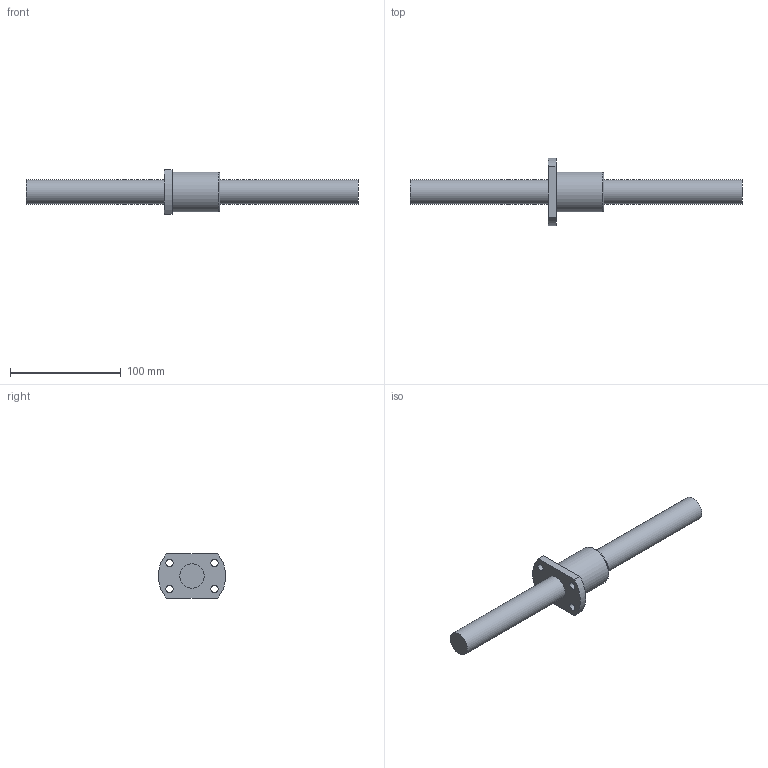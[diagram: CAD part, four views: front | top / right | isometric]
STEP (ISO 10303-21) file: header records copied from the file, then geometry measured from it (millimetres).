
FILE_DESCRIPTION((''),'2;1');
FILE_NAME('D:\製品 (図面)\カタログ用3D\ネジ関連\STEP形式\TMK\TMK22.stp','2010-06-02T15:24:10',('Tsuchiya'),(''),'Autodesk Inventor 10','Autodesk Inventor 10','');
FILE_SCHEMA(('AUTOMOTIVE_DESIGN { 1 0 10303 214 1 1 1 1 }'));
Length unit declared in the file: millimetre
Products named in the file (3): TMK22; TMK221; TMK222
Assembly tree (2 placements, depth 2):
  TMK22
    TMK221
    TMK222
Bounding box: 300 x 60.81 x 40 mm (x, y, z)
Volume: 153557.8 mm3; surface area: 35021 mm2
Topology: 2 solids, 2 shells, 18 faces, 41 edges, 28 vertices
Faces by surface type: plane 7, cylinder 5, bspline 5, torus 1
Full cylindrical faces by diameter (mm): 22 x2, 36 x1
Entity records: 628 total; most frequent: CARTESIAN_POINT 187, DIRECTION 84, ORIENTED_EDGE 56, AXIS2_PLACEMENT_3D 38, EDGE_LOOP 38, EDGE_CURVE 28, VERTEX_POINT 24, CIRCLE 20
